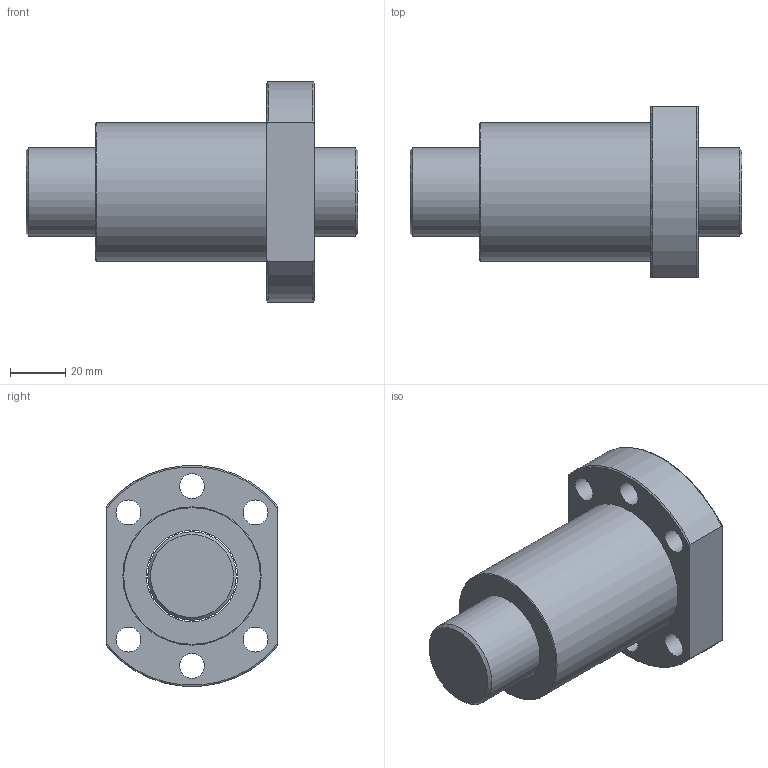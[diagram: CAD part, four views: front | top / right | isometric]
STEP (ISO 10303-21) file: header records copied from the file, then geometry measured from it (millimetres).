
FILE_DESCRIPTION(/* description */ (''),/* implementation_level */ '2;1');
FILE_NAME(/* name */ 'SFS3232-1.8',/* time_stamp */ '2007-10-26T11:16:37+08:00',/* author */ (''),/* organization */ (''),/* preprocessor_version */ 'ST-DEVELOPER v9',/* originating_system */ 'UGS - NX 3.0',/* authorisation */ '');
FILE_SCHEMA (('CONFIG_CONTROL_DESIGN'));
Length unit declared in the file: millimetre
Products named in the file (1): jaso37B0hu7y
Bounding box: 120 x 62 x 79.74 mm (x, y, z)
Volume: 213607.4 mm3; surface area: 45008.6 mm2
Topology: 2 solids, 2 shells, 27 faces, 60 edges, 39 vertices
Faces by surface type: cylinder 12, plane 8, torus 5, cone 2
Full cylindrical faces by diameter (mm): 9 x6, 32 x1, 33 x1, 49.5 x1, 50 x1
Entity records: 952 total; most frequent: CARTESIAN_POINT 282, DIRECTION 122, ORIENTED_EDGE 94, AXIS2_PLACEMENT_3D 59, EDGE_LOOP 56, EDGE_CURVE 47, FACE_BOUND 40, VERTEX_POINT 39
